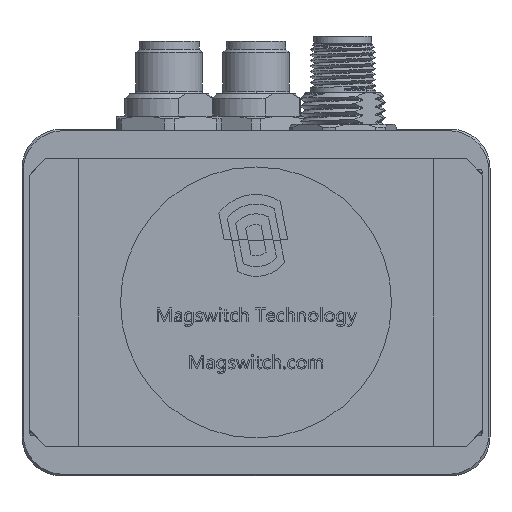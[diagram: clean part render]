
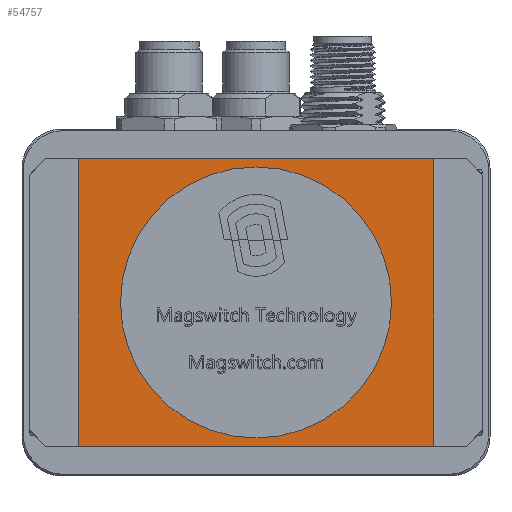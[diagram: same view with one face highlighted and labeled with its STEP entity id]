
A CAD part, front view. The second image highlights one B-rep face of the part: STEP entity #54757.
In plain terms, the highlighted planar face has unit normal (0, -1, 0).
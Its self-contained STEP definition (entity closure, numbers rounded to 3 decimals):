
#1497 = DIRECTION ( 'NONE',  ( 0., 0., 1. ) ) ;
#3034 = EDGE_CURVE ( 'NONE', #3611, #149975, #54881, .T. ) ;
#3611 = VERTEX_POINT ( 'NONE', #100164 ) ;
#5700 = VERTEX_POINT ( 'NONE', #71225 ) ;
#9166 = DIRECTION ( 'NONE',  ( 0., 0., -1. ) ) ;
#18765 = CARTESIAN_POINT ( 'NONE',  ( 41., 0., -26. ) ) ;
#19160 = DIRECTION ( 'NONE',  ( 0., 0., 1. ) ) ;
#19893 = EDGE_CURVE ( 'NONE', #149975, #107905, #131484, .T. ) ;
#20353 = ORIENTED_EDGE ( 'NONE', *, *, #70533, .F. ) ;
#23226 = VECTOR ( 'NONE', #19160, 1000. ) ;
#28557 = VECTOR ( 'NONE', #104878, 1000. ) ;
#32566 = DIRECTION ( 'NONE',  ( 0., -1., 0. ) ) ;
#45563 = VERTEX_POINT ( 'NONE', #134870 ) ;
#46893 = DIRECTION ( 'NONE',  ( 0., 1., 0. ) ) ;
#48265 = CARTESIAN_POINT ( 'NONE',  ( 0., 0., -24.5 ) ) ;
#50116 = AXIS2_PLACEMENT_3D ( 'NONE', #107959, #32566, #157956 ) ;
#51805 = CIRCLE ( 'NONE', #159101, 24.5 ) ;
#54757 = ADVANCED_FACE ( 'NONE', ( #93089, #158410 ), #96103, .F. ) ;
#54881 = LINE ( 'NONE', #18765, #28557 ) ;
#57253 = EDGE_LOOP ( 'NONE', ( #117929, #108328 ) ) ;
#62167 = ORIENTED_EDGE ( 'NONE', *, *, #19893, .F. ) ;
#70533 = EDGE_CURVE ( 'NONE', #45563, #3611, #86199, .T. ) ;
#71225 = CARTESIAN_POINT ( 'NONE',  ( 0., 0., 24.5 ) ) ;
#72121 = CARTESIAN_POINT ( 'NONE',  ( 0., 0., 0. ) ) ;
#74117 = EDGE_CURVE ( 'NONE', #5700, #119048, #99845, .T. ) ;
#78641 = ORIENTED_EDGE ( 'NONE', *, *, #101996, .F. ) ;
#83745 = VECTOR ( 'NONE', #161592, 1000. ) ;
#83968 = CARTESIAN_POINT ( 'NONE',  ( 41., 0., 26. ) ) ;
#86199 = LINE ( 'NONE', #148480, #83745 ) ;
#90603 = CARTESIAN_POINT ( 'NONE',  ( -32., 0., -26. ) ) ;
#93089 = FACE_BOUND ( 'NONE', #57253, .T. ) ;
#96103 = PLANE ( 'NONE',  #138433 ) ;
#98643 = DIRECTION ( 'NONE',  ( 1., 0., 0. ) ) ;
#99025 = ORIENTED_EDGE ( 'NONE', *, *, #3034, .F. ) ;
#99845 = CIRCLE ( 'NONE', #50116, 24.5 ) ;
#100164 = CARTESIAN_POINT ( 'NONE',  ( 32., 0., -26. ) ) ;
#101996 = EDGE_CURVE ( 'NONE', #107905, #45563, #111743, .T. ) ;
#104878 = DIRECTION ( 'NONE',  ( -1., 0., 0. ) ) ;
#107905 = VERTEX_POINT ( 'NONE', #154155 ) ;
#107959 = CARTESIAN_POINT ( 'NONE',  ( 0., 0., 0. ) ) ;
#108328 = ORIENTED_EDGE ( 'NONE', *, *, #134271, .F. ) ;
#111743 = LINE ( 'NONE', #83968, #162012 ) ;
#117929 = ORIENTED_EDGE ( 'NONE', *, *, #74117, .F. ) ;
#119048 = VERTEX_POINT ( 'NONE', #48265 ) ;
#122894 = DIRECTION ( 'NONE',  ( 0., -1., 0. ) ) ;
#131484 = LINE ( 'NONE', #133077, #23226 ) ;
#133077 = CARTESIAN_POINT ( 'NONE',  ( -32., 0., -26. ) ) ;
#134271 = EDGE_CURVE ( 'NONE', #119048, #5700, #51805, .T. ) ;
#134870 = CARTESIAN_POINT ( 'NONE',  ( 32., 0., 26. ) ) ;
#138433 = AXIS2_PLACEMENT_3D ( 'NONE', #146086, #46893, #9166 ) ;
#146086 = CARTESIAN_POINT ( 'NONE',  ( 0., 0., 0. ) ) ;
#146687 = EDGE_LOOP ( 'NONE', ( #78641, #62167, #99025, #20353 ) ) ;
#148480 = CARTESIAN_POINT ( 'NONE',  ( 32., 0., -26. ) ) ;
#149975 = VERTEX_POINT ( 'NONE', #90603 ) ;
#154155 = CARTESIAN_POINT ( 'NONE',  ( -32., 0., 26. ) ) ;
#157956 = DIRECTION ( 'NONE',  ( 0., 0., 1. ) ) ;
#158410 = FACE_OUTER_BOUND ( 'NONE', #146687, .T. ) ;
#159101 = AXIS2_PLACEMENT_3D ( 'NONE', #72121, #122894, #1497 ) ;
#161592 = DIRECTION ( 'NONE',  ( 0., 0., -1. ) ) ;
#162012 = VECTOR ( 'NONE', #98643, 1000. ) ;
